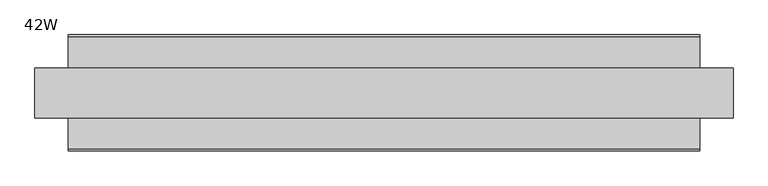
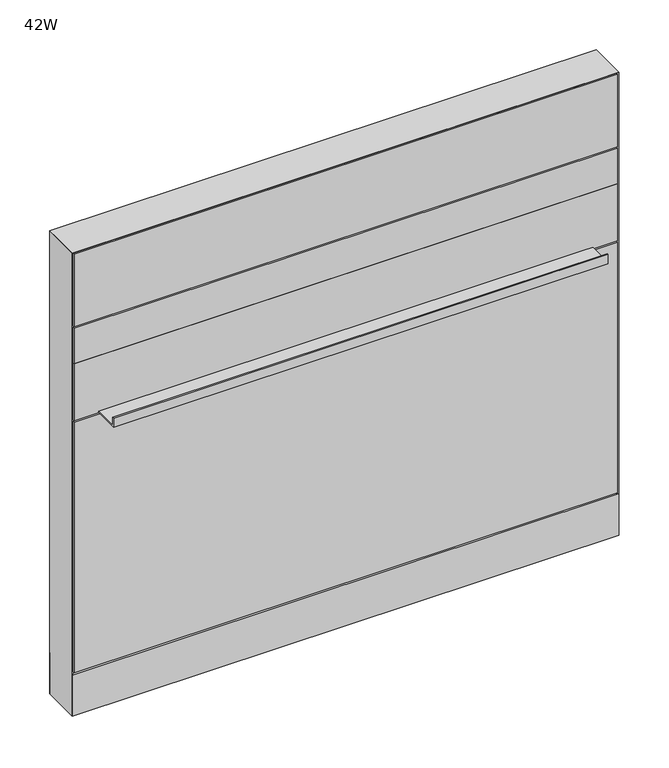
"""IFC4 building model written with IfcOpenShell, lengths in millimetres: furniture geometry, Steelcase - Montage - Frame - 38H - Enhanced Standard - Base and Desk-Height Cavity : 42W."""

import ifcopenshell
import ifcopenshell.guid

model = None  # the IFC model being written
_history = None  # IfcOwnerHistory: only IFC2X3 demands one
_inside = {}  # id of a spatial element -> (the spatial element, [elements in it])
_under = {}  # id of a project, library or spatial element -> (it, [spatial elements below it])
_declared = {}  # id of a project -> (the project, [libraries it declares])
_typed = {}  # id of a type object -> (the type object, [elements of that type])
_made_of = {}  # id of a material, layer set ... -> (it, [elements and type objects made of it])


def new_model(schema):
    """Start an empty IFC model of exactly this schema.

    Asked for "IFC4X3", IfcOpenShell would pick the latest addendum, in which some entities
    have other attributes; the version numbers below select the first issue.
    IFC2X3 requires an IfcOwnerHistory on every rooted entity: one is made here for all.
    """
    global model, _history
    if schema == "IFC4X3":
        model = ifcopenshell.file(schema_version=(4, 3, 0, 0))
    else:
        model = ifcopenshell.file(schema=schema)
    _inside.clear()
    _under.clear()
    _declared.clear()
    _typed.clear()
    _made_of.clear()
    _history = None
    if model.schema == "IFC2X3":
        org = make("IfcOrganization", Name="unknown")
        user = make(
            "IfcPersonAndOrganization",
            ThePerson=make("IfcPerson", FamilyName="unknown"),
            TheOrganization=org,
        )
        app = make(
            "IfcApplication",
            ApplicationDeveloper=org,
            Version="unknown",
            ApplicationFullName="unknown",
            ApplicationIdentifier="unknown",
        )
        _history = make(
            "IfcOwnerHistory",
            OwningUser=user,
            OwningApplication=app,
            ChangeAction="ADDED",
            CreationDate=0,
        )
    return model


def make(cls, **values):
    """One entity of the class cls with the attributes given. An attribute that is None is left unset."""
    return model.create_entity(
        cls, **{name: value for name, value in values.items() if value is not None}
    )


def rooted(cls, **values):
    """An entity with a GlobalId (a new one), such as an element, a storey or a relation."""
    return make(cls, GlobalId=ifcopenshell.guid.new(), OwnerHistory=_history, **values)


def si_unit(unit_type, name, prefix=None):
    """IfcSIUnit, for example si_unit("LENGTHUNIT", "METRE", prefix="MILLI")."""
    return make("IfcSIUnit", UnitType=unit_type, Prefix=prefix, Name=name)


def assignment(units):
    """IfcUnitAssignment: the units of a project."""
    return None if units is None else make("IfcUnitAssignment", Units=units)


def point(xyz):
    """IfcCartesianPoint."""
    return None if xyz is None else make("IfcCartesianPoint", Coordinates=xyz)


def direction(xyz):
    """IfcDirection."""
    return None if xyz is None else make("IfcDirection", DirectionRatios=xyz)


def frame(location, z_axis=None, x_axis=None):
    """IfcAxis2Placement3D, a coordinate frame: its origin and axes. An axis left out is left unset."""
    return make(
        "IfcAxis2Placement3D",
        Location=point(location),
        Axis=direction(z_axis),
        RefDirection=direction(x_axis),
    )


def frame_2d(location, x_axis=None):
    """IfcAxis2Placement2D, a coordinate frame in the plane: its origin and x axis."""
    return make(
        "IfcAxis2Placement2D", Location=point(location), RefDirection=direction(x_axis)
    )


def origin():
    """The frame at (0, 0, 0) with its axes left unset."""
    return frame((0.0, 0.0, 0.0))


def origin_with_axes():
    """The frame at (0, 0, 0) with the z axis (0, 0, 1) and the x axis (1, 0, 0) written out."""
    return frame((0.0, 0.0, 0.0), z_axis=(0.0, 0.0, 1.0), x_axis=(1.0, 0.0, 0.0))


def place(relative_to, where):
    """IfcLocalPlacement: puts the frame where relative to a parent placement (None: the world)."""
    return make(
        "IfcLocalPlacement", PlacementRelTo=relative_to, RelativePlacement=where
    )


def context(
    kind, dimensions, precision=None, world=None, true_north=None, identifier=None
):
    """IfcGeometricRepresentationContext, for example the 3D "Model" context."""
    return make(
        "IfcGeometricRepresentationContext",
        ContextIdentifier=identifier,
        ContextType=kind,
        CoordinateSpaceDimension=dimensions,
        Precision=precision,
        WorldCoordinateSystem=world,
        TrueNorth=true_north,
    )


def project(units=None, contexts=None):
    """IfcProject with its units and contexts."""
    return rooted(
        "IfcProject",
        Name="project",
        RepresentationContexts=contexts,
        UnitsInContext=assignment(units),
    )


def spatial(cls, under=None, at=None, **own):
    """A site, building, storey or space (cls), placed at a placement, below another one or the project."""
    s = rooted(cls, ObjectPlacement=at, **own)
    if under is not None:
        _under.setdefault(under.id(), (under, []))[1].append(s)
    return s


def polyline(points):
    """IfcPolyline through the points."""
    return make("IfcPolyline", Points=[point(p) for p in points])


def circle_curve(where, radius):
    """IfcCircle in the frame where."""
    return make("IfcCircle", Position=where, Radius=radius)


def trimmed(basis, trim1, trim2, sense, master):
    """IfcTrimmedCurve: the piece of a basis curve between two trims."""
    return make(
        "IfcTrimmedCurve",
        BasisCurve=basis,
        Trim1=trim1,
        Trim2=trim2,
        SenseAgreement=sense,
        MasterRepresentation=master,
    )


def segment(curve, same_sense, transition):
    """IfcCompositeCurveSegment."""
    return make(
        "IfcCompositeCurveSegment",
        Transition=transition,
        SameSense=same_sense,
        ParentCurve=curve,
    )


def composite_curve(segments, self_intersect=None):
    """IfcCompositeCurve: segments joined end to end."""
    return make("IfcCompositeCurve", Segments=segments, SelfIntersect=self_intersect)


def outline(outer, holes=None, kind="AREA"):
    """IfcArbitraryClosedProfileDef: a profile drawn as a closed curve; with holes, ...WithVoids."""
    if holes is None:
        return make("IfcArbitraryClosedProfileDef", ProfileType=kind, OuterCurve=outer)
    return make(
        "IfcArbitraryProfileDefWithVoids",
        ProfileType=kind,
        OuterCurve=outer,
        InnerCurves=holes,
    )


def extrude(swept, where, along, depth):
    """IfcExtrudedAreaSolid: the profile swept, set in the frame where, extruded along a direction by depth."""
    return make(
        "IfcExtrudedAreaSolid",
        SweptArea=swept,
        Position=where,
        ExtrudedDirection=direction(along),
        Depth=depth,
    )


def faces_of(points, faces, orient=None, outer=None):
    """IfcFace entities. A face is a list of loops; a loop is a list of indices into points, from 0.

    orient and outer hold one flag for each loop. By default every Orientation is true, the
    first loop of a face is its IfcFaceOuterBound and the others are IfcFaceBound.
    """
    made = []
    for i, loops in enumerate(faces):
        bounds = []
        for j, loop in enumerate(loops):
            is_outer = j == 0 if outer is None else outer[i][j]
            bounds.append(
                make(
                    "IfcFaceOuterBound" if is_outer else "IfcFaceBound",
                    Bound=make("IfcPolyLoop", Polygon=[points[k] for k in loop]),
                    Orientation=True if orient is None else orient[i][j],
                )
            )
        made.append(make("IfcFace", Bounds=bounds))
    return made


def faceted_brep(points, faces, orient=None, outer=None, voids=None):
    """IfcFacetedBrep: a solid bounded by flat faces; with voids (closed shells), ...WithVoids."""
    shared = [point(p) for p in points]
    hull = make("IfcClosedShell", CfsFaces=faces_of(shared, faces, orient, outer))
    if voids is None:
        return make("IfcFacetedBrep", Outer=hull)
    return make(
        "IfcFacetedBrepWithVoids",
        Outer=hull,
        Voids=[
            make(cls, CfsFaces=faces_of(shared, fs, o, b)) for cls, fs, o, b in voids
        ],
    )


def shape(context_of_items, identifier, shape_type, items):
    """IfcShapeRepresentation: the items that make up one representation, for example the "Body"."""
    return make(
        "IfcShapeRepresentation",
        ContextOfItems=context_of_items,
        RepresentationIdentifier=identifier,
        RepresentationType=shape_type,
        Items=items,
    )


def source(mapping_origin, context_of_items, identifier, shape_type, items):
    """IfcRepresentationMap: a shape defined once, which mapped items show again and again."""
    return make(
        "IfcRepresentationMap",
        MappingOrigin=mapping_origin,
        MappedRepresentation=shape(context_of_items, identifier, shape_type, items),
    )


def transform(
    local_origin,
    x_axis=None,
    y_axis=None,
    z_axis=None,
    scale=None,
    scale2=None,
    scale3=None,
    uniform=True,
):
    """IfcCartesianTransformationOperator3D, or its non-uniform kind. x_axis, y_axis, z_axis: its Axis1, 2, 3."""
    if uniform:
        return make(
            "IfcCartesianTransformationOperator3D",
            Axis1=direction(x_axis),
            Axis2=direction(y_axis),
            LocalOrigin=point(local_origin),
            Scale=scale,
            Axis3=direction(z_axis),
        )
    return make(
        "IfcCartesianTransformationOperator3DnonUniform",
        Axis1=direction(x_axis),
        Axis2=direction(y_axis),
        LocalOrigin=point(local_origin),
        Scale=scale,
        Axis3=direction(z_axis),
        Scale2=scale2,
        Scale3=scale3,
    )


def mapped(mapping_source, mapping_target):
    """IfcMappedItem: shows the shape of a source again, moved by a transform."""
    return make(
        "IfcMappedItem", MappingSource=mapping_source, MappingTarget=mapping_target
    )


def made_of(thing, what):
    """Note that an element or type object is made of a material, layer set ...; save() writes the relation."""
    if what is not None:
        _made_of.setdefault(what.id(), (what, []))[1].append(thing)
    return thing


def element(
    cls,
    number,
    at=None,
    inside=None,
    cuts=None,
    type_object=None,
    material=None,
    context=None,
    identifier="Body",
    shape_type=None,
    held_by="IfcProductDefinitionShape",
    body=None,
    shapes=None,
    **own,
):
    """One element of the class cls, such as IfcWall. Its Tag is "e" and its number.

    at: its placement. inside: the storey or other place that contains it. cuts: it is an
    opening in that element (IfcRelVoidsElement). A single representation is given by context,
    identifier, shape_type and body (its items); several are given by shapes. held_by: the class
    of the entity that holds the representations. save() writes the other relations.
    """
    e = rooted(cls, Tag="e%d" % number, ObjectPlacement=at, **own)
    if body is not None:
        shapes = [shape(context, identifier, shape_type, body)]
    if shapes is not None:
        e.Representation = make(held_by, Representations=shapes)
    if inside is not None:
        _inside.setdefault(inside.id(), (inside, []))[1].append(e)
    if cuts is not None:
        rooted(
            "IfcRelVoidsElement", RelatingBuildingElement=cuts, RelatedOpeningElement=e
        )
    if type_object is not None:
        _typed.setdefault(type_object.id(), (type_object, []))[1].append(e)
    return made_of(e, material)


def aggregate(whole, parts):
    """IfcRelAggregates: a whole, such as a stair, and the parts it consists of."""
    return rooted("IfcRelAggregates", RelatingObject=whole, RelatedObjects=parts)


def save(model, path):
    """Write the relations noted so far, then the file.

    IfcRelAggregates (storeys below a building ...), IfcRelContainedInSpatialStructure (elements
    in a storey), IfcRelDefinesByType, IfcRelAssociatesMaterial and IfcRelDeclares: one each for
    every whole, place, type object, material and project.
    """
    for whole, parts in _under.values():
        aggregate(whole, parts)
    for where, things in _inside.values():
        rooted(
            "IfcRelContainedInSpatialStructure",
            RelatedElements=things,
            RelatingStructure=where,
        )
    for kind, things in _typed.values():
        rooted("IfcRelDefinesByType", RelatedObjects=things, RelatingType=kind)
    for what, things in _made_of.values():
        rooted("IfcRelAssociatesMaterial", RelatedObjects=things, RelatingMaterial=what)
    for by, libraries in _declared.values():
        rooted("IfcRelDeclares", RelatingContext=by, RelatedDefinitions=libraries)
    model.write(path)


def furniture_42w_81b6d9b0(model_context):
    return source(origin(), model_context, "Body", "SolidModel", [
        extrude(outline(polyline([(3.175, 31.7500194), (3.175, 38.1000194), (1063.625, 38.1000194), (1063.625, 31.7500194), (3.175, 31.7500194)])), frame((0.0, 0.0, 92.075), z_axis=(0.0, 0.0, 1.0), x_axis=(1.0, 0.0, 0.0)), (0.0, 0.0, 1.0), 517.525),
        extrude(outline(polyline([(88.8960768, 612.775), (38.0960752, 612.775), (38.0960752, 615.315), (86.3560768, 615.315), (86.3560768, 631.825), (88.8960768, 631.825), (88.8960768, 612.775)])), frame((50.8000015, 0.0, 0.0), z_axis=(1.0, 0.0, 0.0), x_axis=(0.0, 1.0, 0.0)), (0.0, 0.0, 1.0), 965.199997),
        extrude(outline(polyline([(3.175, 31.7460752), (3.175, 38.0960752), (1063.625, 38.0960752), (1063.625, 31.7460752), (3.175, 31.7460752)])), frame((0.0, 0.0, 730.2499516), z_axis=(0.0, 0.0, 1.0), x_axis=(1.0, 0.0, 0.0)), (0.0, 0.0, 1.0), 73.0250484),
        extrude(outline(polyline([(3.175, 31.7460752), (3.175, 38.0960752), (1063.625, 38.0960752), (1063.625, 31.7460752), (3.175, 31.7460752)])), frame((0.0, 0.0, 612.775), z_axis=(0.0, 0.0, 1.0), x_axis=(1.0, 0.0, 0.0)), (0.0, 0.0, 1.0), 117.4749516),
        extrude(outline(polyline([(3.175, 31.7500194), (3.175, 38.1000194), (1063.625, 38.1000194), (1063.625, 31.7500194), (3.175, 31.7500194)])), frame((0.0, 0.0, 806.45), z_axis=(0.0, 0.0, 1.0), x_axis=(1.0, 0.0, 0.0)), (0.0, 0.0, 1.0), 149.225),
        extrude(outline(polyline([(3.175, -31.7500194), (1063.625, -31.7500194), (1063.625, -38.1000194), (3.175, -38.1000194), (3.175, -31.7500194)])), frame((0.0, 0.0, 92.075), z_axis=(0.0, 0.0, 1.0), x_axis=(1.0, 0.0, 0.0)), (0.0, 0.0, 1.0), 517.525),
        extrude(outline(polyline([(-88.8960768, 612.775), (-88.8960768, 631.825), (-86.3560768, 631.825), (-86.3560768, 615.315), (-38.0960752, 615.315), (-38.0960752, 612.775), (-88.8960768, 612.775)])), frame((50.8000015, 0.0, 0.0), z_axis=(1.0, 0.0, 0.0), x_axis=(0.0, 1.0, 0.0)), (0.0, 0.0, 1.0), 965.199997),
        extrude(outline(polyline([(3.175, -31.7460752), (1063.625, -31.7460752), (1063.625, -38.0960752), (3.175, -38.0960752), (3.175, -31.7460752)])), frame((0.0, 0.0, 730.2499516), z_axis=(0.0, 0.0, 1.0), x_axis=(1.0, 0.0, 0.0)), (0.0, 0.0, 1.0), 73.0250484),
        extrude(outline(polyline([(3.175, -31.7460752), (1063.625, -31.7460752), (1063.625, -38.0960752), (3.175, -38.0960752), (3.175, -31.7460752)])), frame((0.0, 0.0, 612.775), z_axis=(0.0, 0.0, 1.0), x_axis=(1.0, 0.0, 0.0)), (0.0, 0.0, 1.0), 117.4749516),
        extrude(outline(polyline([(3.175, -31.7500194), (1063.625, -31.7500194), (1063.625, -38.1000194), (3.175, -38.1000194), (3.175, -31.7500194)])), frame((0.0, 0.0, 806.45), z_axis=(0.0, 0.0, 1.0), x_axis=(1.0, 0.0, 0.0)), (0.0, 0.0, 1.0), 149.225),
        extrude(outline(polyline([(1060.4499879, 31.749953), (1060.4499879, -31.7499985), (6.35, -31.7499985), (6.35, 31.749953), (1060.4499879, 31.749953)])), frame((0.0, 0.0, 809.6250242), z_axis=(0.0, 0.0, 1.0), x_axis=(1.0, 0.0, 0.0)), (0.0, 0.0, 1.0), 142.8749273),
        extrude(outline(polyline([(1060.4499879, 31.749953), (1060.4499879, -31.7499985), (6.35, -31.7499985), (6.35, 31.749953), (1060.4499879, 31.749953)])), frame((0.0, 0.0, 619.125), z_axis=(0.0, 0.0, 1.0), x_axis=(1.0, 0.0, 0.0)), (0.0, 0.0, 1.0), 177.8000242),
        extrude(outline(polyline([(1060.4499879, 31.7500016), (1060.4499879, -31.7499985), (6.35, -31.7499985), (6.35, 31.7500016), (1060.4499879, 31.7500016)])), frame((0.0, 0.0, 88.899997), z_axis=(0.0, 0.0, 1.0), x_axis=(1.0, 0.0, 0.0)), (0.0, 0.0, 1.0), 517.525003),
        extrude(outline(polyline([(6.350003, -31.7499985), (1060.449997, -31.7499985), (1066.8, -38.1000015), (0.0, -38.1000015), (6.350003, -31.7499985)])), frame((0.0, 0.0, 4.064), z_axis=(0.0, 0.0, 1.0), x_axis=(1.0, 0.0, 0.0)), (0.0, 0.0, 1.0), 84.835997),
        extrude(outline(polyline([(6.3500002, 31.7500017), (0.0, 38.1000015), (1066.8, 38.1000015), (1060.4500002, 31.7500017), (6.3500002, 31.7500017)])), frame((0.0, 0.0, 4.064), z_axis=(0.0, 0.0, 1.0), x_axis=(1.0, 0.0, 0.0)), (0.0, 0.0, 1.0), 84.835997),
        faceted_brep([(1066.8, -38.1000015, 958.85), (0.0, -38.1000015, 958.85), (6.3500484, -31.749953, 952.4999516), (1060.4499516, -31.749953, 952.4999516), (6.3500484, 31.749953, 952.4999516), (1060.4499516, 31.749953, 952.4999516), (0.0, 38.1000015, 958.85), (1066.8, 38.1000015, 958.85)], [[[0, 1, 2, 3]], [[3, 2, 4, 5]], [[6, 7, 5, 4]], [[1, 0, 7, 6]], [[2, 1, 6, 4]], [[0, 3, 5, 7]]]),
        extrude(outline(composite_curve([segment(trimmed(circle_curve(frame_2d((44.45, 0.0)), 15.24), [point((29.21, 0.0))], [point((59.69, 0.0))], False, "CARTESIAN"), True, "CONTINUOUS"), segment(trimmed(circle_curve(frame_2d((44.45, 0.0)), 15.24), [point((59.69, 0.0))], [point((29.21, 0.0))], False, "CARTESIAN"), True, "CONTINUOUS")], self_intersect=False)), origin_with_axes(), (0.0, 0.0, 1.0), 4.064),
        extrude(outline(composite_curve([segment(trimmed(circle_curve(frame_2d((1022.35, 0.0)), 15.24), [point((1007.11, 0.0))], [point((1037.59, 0.0))], False, "CARTESIAN"), True, "CONTINUOUS"), segment(trimmed(circle_curve(frame_2d((1022.35, 0.0)), 15.24), [point((1037.59, 0.0))], [point((1007.11, 0.0))], False, "CARTESIAN"), True, "CONTINUOUS")], self_intersect=False)), origin_with_axes(), (0.0, 0.0, 1.0), 4.064),
        faceted_brep([(1066.8, -38.1000106, 4.064), (1066.8, 38.1000015, 4.064), (1066.8, 38.1000015, 958.85), (1066.8, -38.1000106, 958.8499637), (0.0, 38.1000015, 4.064), (0.0, -38.1000015, 4.064), (0.0, -38.1000015, 958.85), (0.0, 38.1000015, 958.85), (1060.4499879, 31.7500017, 606.425), (6.35, 31.7500017, 606.425), (6.3499998, 31.7500017, 619.125), (1060.4499879, 31.7500017, 619.125), (6.35, -31.7499985, 619.125), (1060.4499879, -31.7499985, 619.125), (6.350003, -31.7499985, 606.425), (1060.4499879, -31.7499985, 606.425), (1060.4499879, 31.7500017, 796.9250242), (6.35, 31.7500017, 796.9250242), (6.3499998, 31.7500017, 809.6250242), (1060.4499879, 31.7500017, 809.6250242), (6.35, -31.7499985, 809.6250242), (1060.4499879, -31.7499985, 809.6250242), (6.350003, -31.7499985, 796.9250242), (1060.4499879, -31.7499985, 796.9250242), (6.35, 31.7500015, 4.064), (6.35, -31.7500015, 4.064), (1060.4499879, 31.7499894, 4.064), (1060.4499879, -31.7499985, 4.064), (6.35, 31.7500015, 952.5), (6.35, -31.7500015, 952.5), (1060.4499879, -31.7499985, 952.4999516), (1060.4499879, 31.7499899, 952.4999516)], [[[0, 1, 2, 3]], [[4, 5, 6, 7]], [[8, 9, 10, 11]], [[11, 10, 12, 13]], [[13, 12, 14, 15]], [[9, 8, 15, 14]], [[16, 17, 18, 19]], [[19, 18, 20, 21]], [[21, 20, 22, 23]], [[17, 16, 23, 22]], [[24, 25, 5, 4]], [[26, 1, 0, 27]], [[24, 4, 7, 28, 18, 17, 10, 9]], [[5, 25, 14, 12, 22, 20, 29, 6]], [[25, 24, 9, 14]], [[10, 17, 22, 12]], [[20, 18, 28, 29]], [[26, 27, 15, 8]], [[16, 11, 13, 23]], [[19, 21, 30, 31]], [[27, 0, 3, 30, 21, 23, 13, 15]], [[1, 26, 8, 11, 16, 19, 31, 2]], [[7, 6, 29, 28]], [[3, 2, 31, 30]]]),
    ])


if __name__ == "__main__":
    model = new_model("IFC4")
    model_context = context("Model", 3, world=origin())
    ifc_project = project(units=[si_unit("LENGTHUNIT", "METRE", prefix="MILLI")], contexts=[model_context])
    site = spatial("IfcSite", under=ifc_project)
    building = spatial("IfcBuilding", under=site)
    placement = place(None, origin())
    furniture_42w_shape = furniture_42w_81b6d9b0(model_context)
    element("IfcFurniture", 1, ObjectType="Steelcase - Montage - Frame - 38H - Enhanced Standard - Base and Desk-Height Cavity : 42W", at=placement, inside=building, context=model_context, shape_type="MappedRepresentation", body=[
        mapped(furniture_42w_shape, transform((0.0, 0.0, 0.0), x_axis=(1.0, 0.0, 0.0), y_axis=(0.0, 1.0, 0.0), z_axis=(0.0, 0.0, 1.0))),
    ])
    save(model, "model.ifc")
